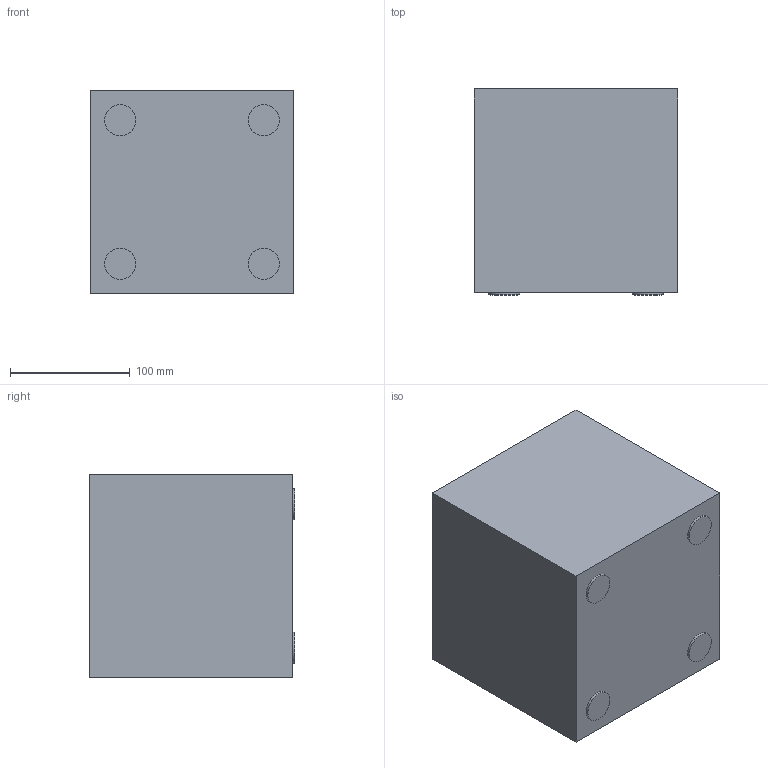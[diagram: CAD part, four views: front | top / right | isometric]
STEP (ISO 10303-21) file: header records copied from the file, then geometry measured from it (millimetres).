
FILE_DESCRIPTION(/* description */ (''),/* implementation_level */ '2;1');
FILE_NAME(/* name */ 'C:\Users\Giulia\Desktop\1374 - Q2.stp',/* time_stamp */ '2015-04-24T12:14:38+02:00',/* author */ ('Giulia'),/* organization */ (''),/* preprocessor_version */ 'ST-DEVELOPER v15.6',/* originating_system */ 'Autodesk Inventor 2015',/* authorisation */ '');
FILE_SCHEMA (('AUTOMOTIVE_DESIGN { 1 0 10303 214 3 1 1 }'));
Length unit declared in the file: centimetre
Products named in the file (1): 1374 - Q2
Bounding box: 170 x 172 x 170 mm (x, y, z)
Volume: 3826803.1 mm3; surface area: 244424.4 mm2
Topology: 3 solids, 7 shells, 36 faces, 54 edges, 36 vertices
Faces by surface type: plane 23, cylinder 13
Full cylindrical faces by diameter (mm): 1 x4, 9 x1, 26 x4, 75 x1, 75.5 x1, 99 x1, 100 x1
Entity records: 768 total; most frequent: CARTESIAN_POINT 142, DIRECTION 136, ORIENTED_EDGE 76, AXIS2_PLACEMENT_3D 62, EDGE_LOOP 58, EDGE_CURVE 38, FACE_OUTER_BOUND 36, ADVANCED_FACE 36
